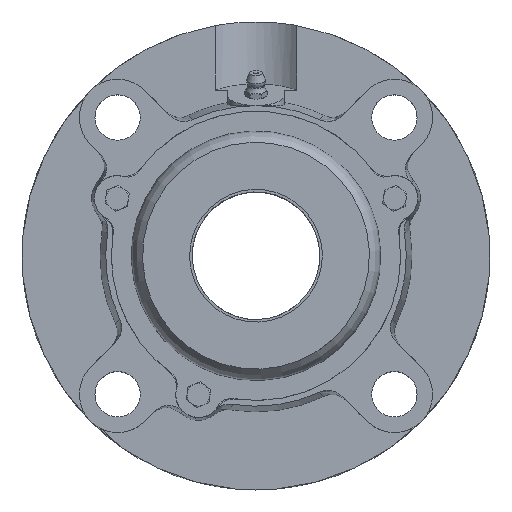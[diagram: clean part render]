
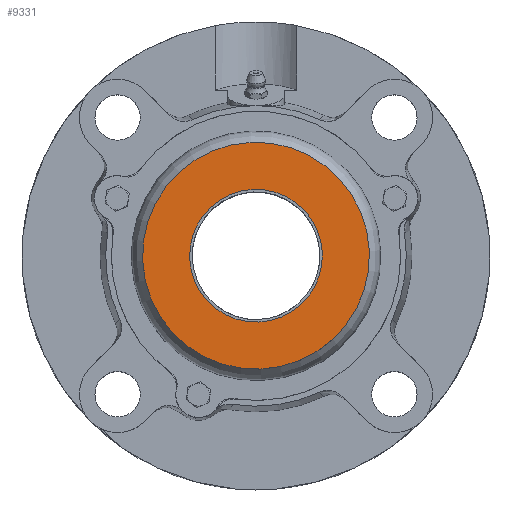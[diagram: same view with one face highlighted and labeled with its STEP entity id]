
A CAD part, top view. The second image highlights one B-rep face of the part: STEP entity #9331.
In plain terms, the highlighted planar face has unit normal (0, 0, 1).
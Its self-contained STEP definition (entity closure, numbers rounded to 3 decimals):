
#8576=CARTESIAN_POINT('',(23.4,0.,33.5));
#8577=VERTEX_POINT('',#8576);
#8578=CARTESIAN_POINT('',(0.0,0.0,33.5));
#8579=DIRECTION('',(0.0,0.0,-1.0));
#8580=DIRECTION('',(-1.0,0.0,0.0));
#8581=AXIS2_PLACEMENT_3D('',#8578,#8579,#8580);
#8582=CIRCLE('',#8581,23.4);
#8583=EDGE_CURVE('',#8577,#8577,#8582,.T.);
#9236=CARTESIAN_POINT('',(0.0,40.0,33.5));
#9237=VERTEX_POINT('',#9236);
#9238=CARTESIAN_POINT('',(0.0,0.,33.5));
#9239=DIRECTION('',(0.0,0.0,1.0));
#9240=DIRECTION('',(0.0,1.0,0.0));
#9241=AXIS2_PLACEMENT_3D('',#9238,#9239,#9240);
#9242=CIRCLE('',#9241,40.);
#9243=EDGE_CURVE('',#9237,#9237,#9242,.T.);
#9320=CARTESIAN_POINT('',(0.,54.491,33.5));
#9321=DIRECTION('',(0.0,0.0,1.0));
#9322=DIRECTION('',(1.0,0.0,0.0));
#9323=AXIS2_PLACEMENT_3D('',#9320,#9321,#9322);
#9324=PLANE('',#9323);
#9325=ORIENTED_EDGE('',*,*,#9243,.T.);
#9326=EDGE_LOOP('',(#9325));
#9327=FACE_OUTER_BOUND('',#9326,.T.);
#9328=ORIENTED_EDGE('',*,*,#8583,.T.);
#9329=EDGE_LOOP('',(#9328));
#9330=FACE_BOUND('',#9329,.T.);
#9331=ADVANCED_FACE('',(#9327,#9330),#9324,.T.);
